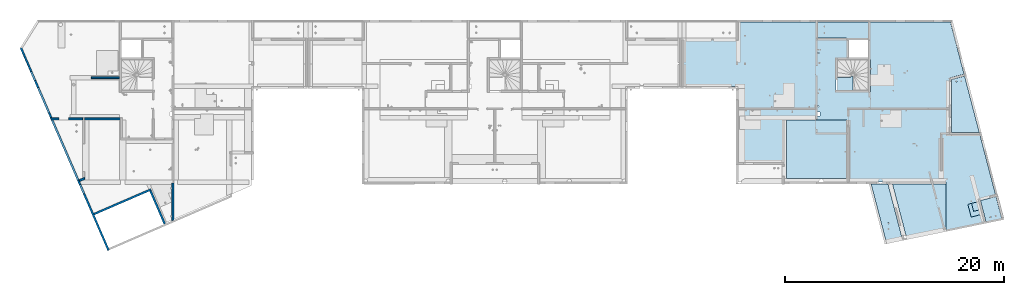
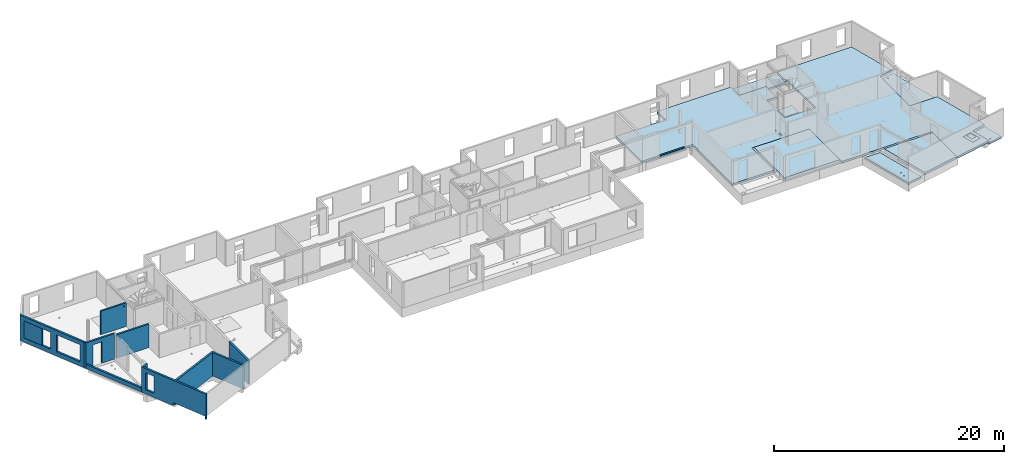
# One storey, part 4 of 34: 10 walls, 8 slabs, 15 openings.
"""IFC2X3 building model written with IfcOpenShell, lengths in centimetres."""

from ifc_helpers import new_model, entity, si_unit, converted_unit, derived_unit, direction, frame, frame_2d, origin, origin_2d_with_axis, place, context, subcontext, project, spatial, polyline, circle_curve, parameter, trimmed, segment, composite_curve, rectangle, circle, outline, extrude, clip, bounded_halfspace, material, layer, layer_set, layer_usage, type_object, element, save


model = new_model("IFC2X3")

# Units and contexts
model_context = context("Model", 3, precision=0.001, world=origin(), true_north=direction((6.12303176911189e-17, 1.0)))
body_context = subcontext(model_context, "Body", "Model", "MODEL_VIEW")
ifc_project = project(units=[si_unit("LENGTHUNIT", "METRE", prefix="CENTI"), si_unit("AREAUNIT", "SQUARE_METRE"), si_unit("VOLUMEUNIT", "CUBIC_METRE"), converted_unit("PLANEANGLEUNIT", "DEGREE", entity("IfcRatioMeasure", 0.0174532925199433), si_unit("PLANEANGLEUNIT", "RADIAN"), dimensions=[0, 0, 0, 0, 0, 0, 0]), si_unit("MASSUNIT", "GRAM", prefix="KILO"), derived_unit("MASSDENSITYUNIT", [(si_unit("MASSUNIT", "GRAM", prefix="KILO"), 1), (si_unit("LENGTHUNIT", "METRE"), -3)]), si_unit("TIMEUNIT", "SECOND"), si_unit("FREQUENCYUNIT", "HERTZ"), si_unit("THERMODYNAMICTEMPERATUREUNIT", "DEGREE_CELSIUS"), derived_unit("THERMALTRANSMITTANCEUNIT", [(si_unit("MASSUNIT", "GRAM", prefix="KILO"), 1), (si_unit("THERMODYNAMICTEMPERATUREUNIT", "KELVIN"), -1), (si_unit("TIMEUNIT", "SECOND"), -3)]), derived_unit("VOLUMETRICFLOWRATEUNIT", [(si_unit("LENGTHUNIT", "METRE"), 3), (si_unit("TIMEUNIT", "SECOND"), -1)]), si_unit("ELECTRICCURRENTUNIT", "AMPERE"), si_unit("ELECTRICVOLTAGEUNIT", "VOLT"), si_unit("POWERUNIT", "WATT"), si_unit("FORCEUNIT", "NEWTON"), si_unit("ILLUMINANCEUNIT", "LUX"), si_unit("LUMINOUSFLUXUNIT", "LUMEN"), si_unit("LUMINOUSINTENSITYUNIT", "CANDELA"), derived_unit("USERDEFINED", [(si_unit("MASSUNIT", "GRAM", prefix="KILO"), -1), (si_unit("LENGTHUNIT", "METRE"), -2), (si_unit("TIMEUNIT", "SECOND"), 3), (si_unit("LUMINOUSFLUXUNIT", "LUMEN"), 1)]), derived_unit("LINEARVELOCITYUNIT", [(si_unit("LENGTHUNIT", "METRE"), 1), (si_unit("TIMEUNIT", "SECOND"), -1)]), si_unit("PRESSUREUNIT", "PASCAL"), derived_unit("USERDEFINED", [(si_unit("LENGTHUNIT", "METRE"), -2), (si_unit("MASSUNIT", "GRAM", prefix="KILO"), 1), (si_unit("TIMEUNIT", "SECOND"), -2)])], contexts=[model_context])

# Site, building, storey
site_placement = place(None, origin())
site = spatial("IfcSite", under=ifc_project, at=site_placement, Name="Default", CompositionType="ELEMENT")
building_placement = place(site_placement, origin())
building = spatial("IfcBuilding", under=site, at=building_placement, Name="CAGE 03", CompositionType="ELEMENT")
storey_placement = place(building_placement, frame((0.0, 0.0, 340.0)))
storey = spatial("IfcBuildingStorey", under=building, at=storey_placement, Name="R+1", CompositionType="ELEMENT", Elevation=340.0)

# Slabs
ifc_material = material(Name="Béton, C25/30")
ifc_layer_1 = layer(ifc_material, 20.0)
ifc_layer_set_1 = layer_set([ifc_layer_1], Name="Sol:Dalle Béton - 20 cm")
ifc_layer_usage_1 = layer_usage(ifc_layer_set_1, "AXIS3", "POSITIVE", 0.0)
slab_1_placement = place(storey_placement, origin())
element("IfcSlab", 1, at=slab_1_placement, inside=storey, material=ifc_layer_usage_1, Name="Sol:Dalle Béton - 20 cm", ObjectType="Sol:Dalle Béton - 20 cm", PredefinedType="FLOOR", context=body_context, shape_type="SweptSolid", body=[
    extrude(outline(polyline([(-392.442227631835, -85.1428571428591), (131.497976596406, -85.1428571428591), (153.527973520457, -85.1428571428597), (161.311497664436, 63.8571428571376), (160.353539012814, 63.8571428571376), (139.281500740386, 63.857142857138), (-353.530259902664, 63.8571428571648), (-392.442227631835, -85.1428571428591)]), holes=[composite_curve([segment(trimmed(circle_curve(frame_2d((-5.95869082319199, -21.0692643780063), x_axis=(0.2526796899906, 0.967549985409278)), 5.5), [parameter(360.0)], [parameter(180.0)], True, "PARAMETER"), False, "CONTINUOUS"), segment(trimmed(circle_curve(frame_2d((-5.95869082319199, -21.0692643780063), x_axis=(0.2526796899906, 0.967549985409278)), 5.5), [parameter(180.0)], [parameter(360.0)], True, "PARAMETER"), False, "CONTINUOUS")], self_intersect=False), composite_curve([segment(trimmed(circle_curve(frame_2d((45.2063802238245, -34.4312348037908), x_axis=(0.2526796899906, 0.967549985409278)), 5.5), [parameter(360.0)], [parameter(180.0)], True, "PARAMETER"), False, "CONTINUOUS"), segment(trimmed(circle_curve(frame_2d((45.2063802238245, -34.4312348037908), x_axis=(0.2526796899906, 0.967549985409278)), 5.5), [parameter(180.0)], [parameter(360.0)], True, "PARAMETER"), False, "CONTINUOUS")], self_intersect=False)]), frame((10697.1701731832, 3438.46706520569, -45.0), z_axis=(0.0, 0.0, 1.0), x_axis=(0.252679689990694, -0.967549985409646, 0.0)), (0.0, 0.0, 1.0), 20.0),
])
ifc_layer_usage_2 = layer_usage(ifc_layer_set_1, "AXIS3", "POSITIVE", 0.0)
slab_2_placement = place(storey_placement, origin())
element("IfcSlab", 2, at=slab_2_placement, inside=storey, material=ifc_layer_usage_2, Name="Sol:Dalle Béton - 20 cm", ObjectType="Sol:Dalle Béton - 20 cm", PredefinedType="FLOOR", context=body_context, shape_type="SweptSolid", body=[
    extrude(outline(polyline([(-47.1666666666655, -242.0), (99.8333333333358, -242.0), (99.8333333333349, 220.0), (-52.666666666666, 220.0), (-52.6666666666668, 22.0), (-47.1666666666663, 22.0), (-47.1666666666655, -242.0)])), frame((10270.3658201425, 5175.82733274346, -25.0), z_axis=(0.0, 0.0, -1.0), x_axis=(0.0, 1.0, 0.0)), (0.0, 0.0, 1.0), 20.0),
])
ifc_layer_usage_3 = layer_usage(ifc_layer_set_1, "AXIS3", "POSITIVE", 0.0)
slab_3_placement = place(storey_placement, origin())
element("IfcSlab", 3, at=slab_3_placement, inside=storey, material=ifc_layer_usage_3, Name="Sol:Dalle Béton - 20 cm", ObjectType="Sol:Dalle Béton - 20 cm", PredefinedType="FLOOR", context=body_context, shape_type="SweptSolid", body=[
    extrude(outline(polyline([(-399.024824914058, -76.6053543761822), (93.9729604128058, -76.6053543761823), (112.576650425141, -76.6053543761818), (133.369409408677, -76.6053543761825), (133.369409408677, 38.6315831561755), (133.369409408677, 47.9685545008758), (126.944164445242, 49.6465338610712), (-334.577178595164, 170.174745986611), (-399.024824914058, -76.6053543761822)]), holes=[composite_curve([segment(trimmed(circle_curve(frame_2d((105.898078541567, 8.63358141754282), x_axis=(-0.2526796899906, -0.967549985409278)), 5.5), [parameter(360.0)], [parameter(180.0)], True, "PARAMETER"), False, "CONTINUOUS"), segment(trimmed(circle_curve(frame_2d((105.898078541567, 8.63358141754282), x_axis=(-0.2526796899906, -0.967549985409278)), 5.5), [parameter(180.0)], [parameter(360.0)], True, "PARAMETER"), False, "CONTINUOUS")], self_intersect=False)]), frame((11328.4775353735, 4633.38051240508, -45.0), z_axis=(0.0, 0.0, 1.0), x_axis=(-0.252679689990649, 0.967549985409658, 0.0)), (0.0, 0.0, 1.0), 20.0),
])
ifc_layer_usage_4 = layer_usage(ifc_layer_set_1, "AXIS3", "POSITIVE", 0.0)
slab_4_placement = place(storey_placement, origin())
element("IfcSlab", 4, at=slab_4_placement, inside=storey, material=ifc_layer_usage_4, Name="Sol:Dalle Béton - 20 cm", ObjectType="Sol:Dalle Béton - 20 cm", PredefinedType="FLOOR", context=body_context, shape_type="SweptSolid", body=[
    extrude(outline(polyline([(-73.500000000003, -134.373576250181), (73.4999999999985, -134.373576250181), (73.4999999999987, 59.592151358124), (73.4999999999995, 67.1023775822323), (-73.5000000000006, 74.7814248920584), (-73.5000000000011, 67.2711986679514), (-73.500000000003, -134.373576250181)]), holes=[composite_curve([segment(trimmed(circle_curve(frame_2d((24.5140225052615, 34.0150509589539), x_axis=(-1.0, 0.0)), 5.5), [parameter(1.62844399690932e-12)], [parameter(180.000000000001)], True, "PARAMETER"), False, "CONTINUOUS"), segment(trimmed(circle_curve(frame_2d((24.5140225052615, 34.0150509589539), x_axis=(-1.0, 0.0)), 5.5), [parameter(180.000000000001)], [parameter(1.62844399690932e-12)], True, "PARAMETER"), False, "CONTINUOUS")], self_intersect=False)]), frame((11618.7799813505, 3534.05680734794, -45.0), z_axis=(0.0, 0.0, 1.0), x_axis=(-0.967549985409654, -0.252679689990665, 0.0)), (0.0, 0.0, 1.0), 20.0),
])

# Slab, openings
ifc_layer_2 = layer(ifc_material, 23.0)
ifc_layer_set_2 = layer_set([ifc_layer_2], Name="Sol:Dalle Béton - 23 cm")
ifc_layer_usage_5 = layer_usage(ifc_layer_set_2, "AXIS3", "POSITIVE", 0.0)
slab_5_placement = place(storey_placement, frame((8789.36582014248, 3375.92053429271, -23.0)))
slab_5 = element("IfcSlab", 5, at=slab_5_placement, inside=storey, material=ifc_layer_usage_5, Name="Sol:Dalle Béton - 23 cm", ObjectType="Sol:Dalle Béton - 23 cm", PredefinedType="FLOOR", context=body_context, shape_type="SweptSolid", body=[
    extrude(outline(polyline([(194.287805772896, 949.87006589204), (194.287805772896, 802.870065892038), (-72.7121942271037, 802.870065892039), (-72.7121942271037, 619.370065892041), (26.7878057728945, 619.370065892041), (26.7878057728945, 312.370065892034), (-285.712194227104, 312.370065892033), (-285.712194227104, 606.870065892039), (-280.212194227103, 606.870065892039), (-280.212194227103, 797.37006589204), (-267.712194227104, 797.37006589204), (-267.712194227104, 949.87006589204), (-1017.26435487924, 949.870065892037), (-1141.69544352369, 473.403999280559), (-1007.7121942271, 438.413718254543), (-1007.7121942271, -77.1299341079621), (-1285.46966265, -77.1299341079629), (-1433.2878057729, -643.148683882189), (-1291.05795791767, -680.292598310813), (-1341.96683947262, -875.230654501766), (-979.822430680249, -949.870065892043), (-978.712194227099, -944.48328809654), (-978.7121942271, -511.129934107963), (-74.7121942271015, -511.12993410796), (-74.7121942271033, 55.8700658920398), (501.287805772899, 55.8700658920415), (501.287805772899, -331.129934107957), (920.287805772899, -331.129934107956), (920.287805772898, 360.870065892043), (1433.2878057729, 360.870065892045), (1433.2878057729, 802.87006589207), (938.287805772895, 802.870065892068), (938.287805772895, 949.870065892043), (194.287805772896, 949.87006589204)])), frame((1433.2878057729, 949.870065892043, 23.0), z_axis=(0.0, 0.0, -1.0), x_axis=(-1.0, 0.0, 0.0)), (0.0, 0.0, 1.0), 23.0),
])
opening_1_placement = place(slab_5_placement, origin())
element("IfcOpeningElement", 6, at=opening_1_placement, cuts=slab_5, ObjectType="Opening", context=body_context, shape_type="SweptSolid", body=[
    extrude(rectangle(XDim=255.000000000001, YDim=26.0000000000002, at=origin_2d_with_axis()), frame((302.499999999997, 1305.74013178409, 11.0)), (0.0, 0.0, 1.0), 11.9999999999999),
])
opening_2_placement = place(slab_5_placement, origin())
element("IfcOpeningElement", 7, at=opening_2_placement, cuts=slab_5, ObjectType="Opening", context=body_context, shape_type="SweptSolid", body=[
    extrude(rectangle(XDim=120.000000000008, YDim=90.0000000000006, at=origin_2d_with_axis()), frame((2668.07735478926, 188.219516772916, 20.0), z_axis=(0.0, 0.0, 1.0), x_axis=(-0.252679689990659, 0.967549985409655, 0.0)), (0.0, 0.0, 1.0), 13.9999999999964),
])
opening_3_placement = place(slab_5_placement, origin())
element("IfcOpeningElement", 8, at=opening_3_placement, cuts=slab_5, ObjectType="Opening", context=body_context, shape_type="SweptSolid", body=[
    extrude(rectangle(XDim=75.0000000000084, YDim=55.0000000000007, at=origin_2d_with_axis()), frame((2679.32418650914, 214.41128601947, 13.0), z_axis=(0.0, 0.0, 1.0), x_axis=(-0.252679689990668, 0.967549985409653, 0.0)), (0.0, 0.0, 1.0), 20.9999999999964),
])
opening_4_placement = place(slab_5_placement, origin())
element("IfcOpeningElement", 9, at=opening_4_placement, cuts=slab_5, ObjectType="Opening", context=body_context, shape_type="SweptSolid", body=[
    extrude(rectangle(XDim=39.9999999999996, YDim=19.9999999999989, at=origin_2d_with_axis()), frame((1249.0, 1060.24013178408, -251.327930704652), z_axis=(0.0, 0.0, 1.0), x_axis=(0.0, -1.0, 0.0)), (0.0, 0.0, 1.0), 493.425926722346),
])
opening_5_placement = place(slab_5_placement, origin())
element("IfcOpeningElement", 10, at=opening_5_placement, cuts=slab_5, ObjectType="Opening", context=body_context, shape_type="SweptSolid", body=[
    extrude(circle(Radius=5.5, at=origin_2d_with_axis()), frame((1244.5, 1130.24013178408, 0.0)), (0.0, 0.0, 1.0), 23.0),
])
opening_6_placement = place(slab_5_placement, origin())
element("IfcOpeningElement", 11, at=opening_6_placement, cuts=slab_5, ObjectType="Opening", context=body_context, shape_type="SweptSolid", body=[
    extrude(circle(Radius=5.5, at=origin_2d_with_axis()), frame((1244.5, 1615.74013178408, 0.0)), (0.0, 0.0, 1.0), 23.0),
])

# Slabs
ifc_layer_usage_6 = layer_usage(ifc_layer_set_1, "AXIS3", "POSITIVE", 0.0)
slab_6_placement = place(storey_placement, origin())
element("IfcSlab", 12, at=slab_6_placement, inside=storey, material=ifc_layer_usage_6, Name="Sol:Dalle Béton - 20 cm", ObjectType="Sol:Dalle Béton - 20 cm", PredefinedType="FLOOR", context=body_context, shape_type="SweptSolid", body=[
    extrude(outline(composite_curve([segment(polyline([(-85.2340667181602, -89.0921462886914), (36.2717832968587, -89.0921462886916)]), True, "CONTINUOUS"), segment(polyline([(36.2717832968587, -89.0921462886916), (36.2717832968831, 17.4802710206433)]), True, "CONTINUOUS"), segment(trimmed(circle_curve(frame_2d((70.1894485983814, 17.4802710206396), x_axis=(-1.0, 0.0)), 33.9176653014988), [parameter(303.116761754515)], [parameter(0.0)], True, "PARAMETER"), False, "CONTINUOUS"), segment(trimmed(circle_curve(frame_2d((61.2659332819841, 57.4078537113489), x_axis=(-0.640486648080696, -0.767969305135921)), 15.0000000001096), [parameter(309.828117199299)], [parameter(0.0)], True, "PARAMETER"), False, "CONTINUOUS"), segment(polyline([(46.265933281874, 57.407853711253), (-85.2340667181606, 57.407853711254)]), True, "CONTINUOUS"), segment(polyline([(-85.2340667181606, 57.407853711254), (-85.2340667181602, -89.0921462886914)]), True, "CONTINUOUS")], self_intersect=False)), frame((10291.9579664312, 4730.39473279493, 0.0), z_axis=(0.0, 0.0, -1.0), x_axis=(0.0, 1.0, 0.0)), (0.0, 0.0, 1.0), 20.0),
])
ifc_layer_3 = layer(ifc_material, 28.0)
ifc_layer_set_3 = layer_set([ifc_layer_3], Name="Sol:Dalle Béton - 28 cm")
ifc_layer_usage_7 = layer_usage(ifc_layer_set_3, "AXIS3", "POSITIVE", 0.0)
slab_7_placement = place(storey_placement, origin())
element("IfcSlab", 13, at=slab_7_placement, inside=storey, material=ifc_layer_usage_7, Name="Sol:Dalle Béton - 28 cm", ObjectType="Sol:Dalle Béton - 28 cm", PredefinedType="FLOOR", context=body_context, shape_type="SweptSolid", body=[
    extrude(outline(polyline([(-226.379443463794, -213.201252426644), (189.032784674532, -213.201252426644), (263.726102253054, 149.204704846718), (-226.379443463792, 277.197800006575), (-226.379443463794, -213.201252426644)])), frame((10988.1645677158, 3570.28122261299, 0.0), z_axis=(0.0, 0.0, -1.0), x_axis=(0.0, -1.0, 0.0)), (0.0, 0.0, 1.0), 28.0),
])
ifc_layer_4 = layer(ifc_material, 30.0)
ifc_layer_set_4 = layer_set([ifc_layer_4], Name="Sol:Dalle Béton - 30 cm")
ifc_layer_usage_8 = layer_usage(ifc_layer_set_4, "AXIS3", "POSITIVE", 0.0)
slab_8_placement = place(storey_placement, origin())
element("IfcSlab", 14, at=slab_8_placement, inside=storey, material=ifc_layer_usage_8, Name="Sol:Dalle Béton - 30 cm", ObjectType="Sol:Dalle Béton - 30 cm", PredefinedType="FLOOR", context=body_context, shape_type="SweptSolid", body=[
    extrude(rectangle(XDim=535.000000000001, YDim=554.000000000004, at=frame_2d((2.27373675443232e-13, -8.5265128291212e-13), x_axis=(1.0, 0.0))), frame((10020.3658201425, 4114.16066607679, 0.0), z_axis=(0.0, 0.0, -1.0), x_axis=(0.0, 1.0, 0.0)), (0.0, 0.0, 1.0), 30.0),
])

# Wall, openings
ifc_layer_5 = layer(ifc_material, 18.0)
ifc_layer_set_5 = layer_set([ifc_layer_5], Name="Mur de base:Voile BA 18")
ifc_layer_usage_9 = layer_usage(ifc_layer_set_5, "AXIS2", "NEGATIVE", 9.0)
wall_type_1 = type_object("IfcWallType", Name="Mur de base:Voile BA 18", PredefinedType="STANDARD", material=ifc_layer_set_5)
wall_1_placement = place(storey_placement, frame((3555.63190908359, 3190.75283012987, 0.0), z_axis=(0.0, 0.0, 1.0), x_axis=(-0.397106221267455, 0.917772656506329, 0.0)))
wall_1 = element("IfcWallStandardCase", 15, at=wall_1_placement, inside=storey, type_object=wall_type_1, material=ifc_layer_usage_9, Name="Mur de base:Voile BA 18", ObjectType="Mur de base:Voile BA 18", context=body_context, shape_type="SweptSolid", body=[
    extrude(rectangle(XDim=698.999999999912, YDim=18.0000000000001, at=frame_2d((349.499999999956, 6.92779167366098e-14), x_axis=(-1.0, 0.0))), origin(), (0.0, 0.0, 1.0), 270.0),
])
opening_7_placement = place(wall_1_placement, origin())
element("IfcOpeningElement", 16, at=opening_7_placement, cuts=wall_1, Name="Mur de base:Voile BA 18", ObjectType="Recess", context=body_context, shape_type="SweptSolid", body=[
    extrude(rectangle(XDim=181.0, YDim=194.0, at=frame_2d((0.0, 0.0), x_axis=(0.0, 1.0))), frame((1875.49999999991, 7.0, 135.5), z_axis=(0.0, 1.0, 0.0), x_axis=(1.0, 0.0, 0.0)), (0.0, 0.0, 1.0), 2.00000000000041),
])
opening_8_placement = place(wall_1_placement, origin())
element("IfcOpeningElement", 17, at=opening_8_placement, cuts=wall_1, Name="Mur de base:Voile BA 18", ObjectType="Opening", context=body_context, shape_type="SweptSolid", body=[
    extrude(rectangle(XDim=31.9999999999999, YDim=347.999999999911, at=frame_2d((-3.25073301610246e-13, 1.84741111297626e-13), x_axis=(1.0, 0.0))), frame((183.0, 9.0, 16.0), z_axis=(0.0, -1.0, 0.0), x_axis=(0.0, 0.0, 1.0)), (0.0, 0.0, 1.0), 18.0),
])
opening_9_placement = place(wall_1_placement, frame((-1516.4221495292, 4530.32954212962, 0.0), z_axis=(0.0, 0.0, 1.0), x_axis=(-0.397106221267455, -0.917772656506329, 0.0)))
element("IfcOpeningElement", 18, at=opening_9_placement, cuts=wall_1, Name="Mur de base:Voile BA 18", ObjectType="Opening", context=body_context, shape_type="SweptSolid", body=[
    extrude(rectangle(XDim=181.0, YDim=91.0, at=frame_2d((0.0, -8.88178419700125e-14), x_axis=(1.0, 0.0))), frame((3445.99847860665, 3805.24475108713, 135.5), z_axis=(-0.917772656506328, -0.397106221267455, 0.0), x_axis=(0.0, 0.0, 1.0)), (0.0, 0.0, 1.0), 304.8),
])

# Wall
ifc_layer_usage_10 = layer_usage(ifc_layer_set_5, "AXIS2", "NEGATIVE", 9.0)
wall_2_placement = place(storey_placement, frame((3289.88857031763, 3827.58991911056, 0.0), z_axis=(0.0, 0.0, 1.0), x_axis=(0.917772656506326, 0.397106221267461, 0.0)))
element("IfcWallStandardCase", 19, at=wall_2_placement, inside=storey, type_object=wall_type_1, material=ifc_layer_usage_10, Name="Mur de base:Voile BA 18", ObjectType="Mur de base:Voile BA 18", context=body_context, shape_type="SweptSolid", body=[
    extrude(outline(polyline([(47.2919884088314, -9.0), (55.0803136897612, 9.0), (35.4676134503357, 9.0), (0.0, 9.0), (0.0, -9.0), (47.2919884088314, -9.0)])), origin(), (0.0, 0.0, 1.0), 270.0),
])

# Wall, opening
ifc_layer_usage_11 = layer_usage(ifc_layer_set_5, "AXIS2", "NEGATIVE", 9.0)
wall_3_placement = place(storey_placement, frame((3318.86582014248, 4390.66066607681, 0.0), z_axis=(0.0, 0.0, 1.0), x_axis=(-1.0, 0.0, 0.0)))
wall_3 = element("IfcWallStandardCase", 20, at=wall_3_placement, inside=storey, type_object=wall_type_1, material=ifc_layer_usage_11, Name="Mur de base:Voile BA 18", ObjectType="Mur de base:Voile BA 18", context=body_context, shape_type="SweptSolid", body=[
    extrude(outline(polyline([(288.327905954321, 9.0), (0.0, 9.0), (0.0, -9.0), (276.503530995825, -9.0), (296.116231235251, -9.0), (288.327905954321, 9.0)])), origin(), (0.0, 0.0, 1.0), 270.0),
])
opening_10_placement = place(wall_3_placement, frame((3318.86582014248, 4390.66066607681, 0.0), z_axis=(0.0, 0.0, 1.0), x_axis=(-1.0, 0.0, 0.0)))
element("IfcOpeningElement", 21, at=opening_10_placement, cuts=wall_3, Name="Mur de base:Voile BA 18", ObjectType="Opening", context=body_context, shape_type="SweptSolid", body=[
    extrude(rectangle(XDim=226.0, YDim=91.0000000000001, at=frame_2d((5.6843418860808e-14, 0.0), x_axis=(1.0, 0.0))), frame((3146.36582014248, 4534.06066607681, 113.0), z_axis=(0.0, -1.0, 0.0), x_axis=(0.0, 0.0, 1.0)), (0.0, 0.0, 1.0), 304.8),
])

# Wall, openings
ifc_layer_usage_12 = layer_usage(ifc_layer_set_5, "AXIS2", "NEGATIVE", 9.0)
wall_4_placement = place(storey_placement, frame((3034.1023352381, 4396.08671008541, 0.0), z_axis=(0.0, 0.0, 1.0), x_axis=(-0.397106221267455, 0.917772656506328, 0.0)))
wall_4 = element("IfcWallStandardCase", 22, at=wall_4_placement, inside=storey, type_object=wall_type_1, material=ifc_layer_usage_12, Name="Mur de base:Voile BA 18", ObjectType="Mur de base:Voile BA 18", context=body_context, shape_type="SweptSolid", body=[
    extrude(outline(polyline([(714.485241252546, -9.0), (702.296747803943, 8.75029327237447), (702.125283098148, 9.0), (7.78832528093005, 9.0), (0.0, -9.0), (692.65021055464, -9.0), (694.616466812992, -9.0), (714.485241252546, -9.0)])), origin(), (0.0, 0.0, 1.0), 270.0),
])
opening_11_placement = place(wall_4_placement, origin())
element("IfcOpeningElement", 23, at=opening_11_placement, cuts=wall_4, Name="Mur de base:Voile BA 18", ObjectType="Recess", context=body_context, shape_type="SweptSolid", body=[
    extrude(rectangle(XDim=181.0, YDim=194.0, at=frame_2d((0.0, 0.0), x_axis=(0.0, 1.0))), frame((562.174884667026, 7.0, 135.5), z_axis=(0.0, 1.0, 0.0), x_axis=(1.0, 0.0, 0.0)), (0.0, 0.0, 1.0), 2.00000000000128),
])
opening_12_placement = place(wall_4_placement, frame((-2829.74726486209, 4530.32954212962, 0.0), z_axis=(0.0, 0.0, 1.0), x_axis=(-0.397106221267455, -0.917772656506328, 0.0)))
element("IfcOpeningElement", 24, at=opening_12_placement, cuts=wall_4, Name="Mur de base:Voile BA 18", ObjectType="Opening", context=body_context, shape_type="SweptSolid", body=[
    extrude(rectangle(XDim=181.0, YDim=91.0, at=frame_2d((0.0, -8.88178419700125e-14), x_axis=(1.0, 0.0))), frame((2999.05542657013, 4838.197875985, 135.5), z_axis=(-0.917772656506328, -0.397106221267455, 0.0), x_axis=(0.0, 0.0, 1.0)), (0.0, 0.0, 1.0), 304.8),
])
opening_13_placement = place(wall_4_placement, frame((-2829.74726486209, 4530.32954212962, 0.0), z_axis=(0.0, 0.0, 1.0), x_axis=(-0.397106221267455, -0.917772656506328, 0.0)))
element("IfcOpeningElement", 25, at=opening_13_placement, cuts=wall_4, Name="Mur de base:Voile BA 18", ObjectType="Opening", context=body_context, shape_type="SweptSolid", body=[
    extrude(rectangle(XDim=181.0, YDim=251.0, at=frame_2d((0.0, 4.05009359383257e-13), x_axis=(1.0, 0.0))), frame((3094.36091967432, 4617.93243842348, 135.5), z_axis=(-0.917772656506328, -0.397106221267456, 0.0), x_axis=(0.0, 0.0, 1.0)), (0.0, 0.0, 1.0), 304.8),
])

# Walls
ifc_layer_usage_13 = layer_usage(ifc_layer_set_5, "AXIS2", "NEGATIVE", 9.0)
wall_5_placement = place(storey_placement, frame((3663.36582014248, 4390.66066607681, 0.0), z_axis=(0.0, 0.0, 1.0), x_axis=(-1.0, 0.0, 0.0)))
element("IfcWallStandardCase", 26, at=wall_5_placement, inside=storey, type_object=wall_type_1, material=ifc_layer_usage_13, Name="Mur de base:Voile BA 18", ObjectType="Mur de base:Voile BA 18", context=body_context, shape_type="SweptSolid", body=[
    extrude(rectangle(XDim=326.5, YDim=17.9999999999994, at=frame_2d((163.25, 1.23456800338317e-13), x_axis=(-1.0, 0.0))), origin(), (0.0, 0.0, 1.0), 250.0),
])
ifc_layer_usage_14 = layer_usage(ifc_layer_set_5, "AXIS2", "NEGATIVE", 9.0)
wall_6_placement = place(storey_placement, frame((3422.1249419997, 3521.97162449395, 0.0), z_axis=(0.0, 0.0, 1.0), x_axis=(0.917772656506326, 0.397106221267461, 0.0)))
element("IfcWallStandardCase", 27, at=wall_6_placement, inside=storey, type_object=wall_type_1, material=ifc_layer_usage_14, Name="Mur de base:Voile BA 18", ObjectType="Mur de base:Voile BA 18", context=body_context, shape_type="Clipping", body=[
    clip(extrude(rectangle(XDim=566.5, YDim=18.0000000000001, at=frame_2d((283.25, 9.59232693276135e-14), x_axis=(-1.0, 0.0))), origin(), (0.0, 0.0, 1.0), 250.0), bounded_halfspace(frame((0.0, -9.0, 250.0), z_axis=(0.0, 0.0, -1.0), x_axis=(-0.397106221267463, -0.917772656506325, 0.0)), True, frame((0.0, -9.0, 250.0), z_axis=(0.0, 0.0, -1.0), x_axis=(-0.397106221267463, -0.917772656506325, 0.0)), polyline([(0.0, 0.0), (-16.5199078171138, 7.14791198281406), (-241.480582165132, -512.770297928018), (-224.960674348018, -519.918209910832), (-217.812762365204, -503.398302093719), (0.0, 0.0)]))),
])
ifc_layer_usage_15 = layer_usage(ifc_layer_set_5, "AXIS2", "NEGATIVE", 9.0)
wall_7_placement = place(storey_placement, frame((3937.35715399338, 3735.098388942, 0.0), z_axis=(0.0, 0.0, 1.0), x_axis=(0.397106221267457, -0.917772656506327, 0.0)))
element("IfcWallStandardCase", 28, at=wall_7_placement, inside=storey, type_object=wall_type_1, material=ifc_layer_usage_15, Name="Mur de base:Voile BA 18", ObjectType="Mur de base:Voile BA 18", context=body_context, shape_type="Clipping", body=[
    clip(extrude(rectangle(XDim=329.999999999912, YDim=17.9999999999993, at=frame_2d((164.999999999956, 2.1493917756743e-13), x_axis=(-1.0, 0.0))), origin(), (0.0, 0.0, 1.0), 250.0), bounded_halfspace(frame((0.0, -9.0, 250.0), z_axis=(0.0, 0.0, -1.0), x_axis=(0.917772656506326, -0.39710622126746, 0.0)), True, frame((0.0, -9.0, 250.0), z_axis=(0.0, 0.0, -1.0), x_axis=(0.917772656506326, -0.39710622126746, 0.0)), polyline([(0.0, 0.0), (-7.14791198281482, -16.519907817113), (295.717064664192, -147.564960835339), (302.864976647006, -131.045053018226), (0.0, 0.0)]))),
])

# Wall, opening
ifc_layer_usage_16 = layer_usage(ifc_layer_set_5, "AXIS2", "POSITIVE", -9.0)
wall_8_placement = place(storey_placement, frame((3038.79786809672, 4385.23462206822, 0.0), z_axis=(0.0, 0.0, 1.0), x_axis=(0.397106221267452, -0.91777265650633, 0.0)))
wall_8 = element("IfcWallStandardCase", 29, at=wall_8_placement, inside=storey, type_object=wall_type_1, material=ifc_layer_usage_16, Name="Mur de base:Voile BA 18", ObjectType="Mur de base:Voile BA 18", context=body_context, shape_type="SweptSolid", body=[
    extrude(outline(polyline([(602.500740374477, -9.0), (602.500740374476, 9.0), (7.78832528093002, 9.0), (0.0, -9.0), (602.500740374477, -9.0)])), origin(), (0.0, 0.0, 1.0), 45.0),
])
opening_14_placement = place(wall_8_placement, origin())
element("IfcOpeningElement", 30, at=opening_14_placement, cuts=wall_8, Name="Mur de base:Voile BA 18", ObjectType="Recess", context=body_context, shape_type="SweptSolid", body=[
    extrude(rectangle(XDim=181.0, YDim=194.0, at=origin_2d_with_axis()), frame((-573.999259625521, -9.0, 135.5), z_axis=(0.0, 1.0, 0.0), x_axis=(0.0, 0.0, -1.0)), (0.0, 0.0, 1.0), 2.00000000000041),
])

# Wall
ifc_layer_usage_17 = layer_usage(ifc_layer_set_5, "AXIS2", "POSITIVE", -9.0)
wall_9_placement = place(storey_placement, frame((4143.36582014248, 3805.77486094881, 0.0), z_axis=(0.0, 0.0, 1.0), x_axis=(0.0, -1.0, 0.0)))
element("IfcWallStandardCase", 31, at=wall_9_placement, inside=storey, type_object=wall_type_1, material=ifc_layer_usage_17, Name="Mur de base:Voile BA 18", ObjectType="Mur de base:Voile BA 18", context=body_context, shape_type="SweptSolid", body=[
    extrude(outline(polyline([(345.0, -9.0), (337.21167471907, 9.0), (0.0, 9.0), (0.0, -9.0), (1.11419487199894, -9.0), (89.08112143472, -9.0), (345.0, -9.0)])), origin(), (0.0, 0.0, 1.0), 250.0),
])

# Wall, opening
ifc_layer_6 = layer(ifc_material, 16.0)
ifc_layer_set_6 = layer_set([ifc_layer_6], Name="Mur de base:Voile BA 16")
ifc_layer_usage_18 = layer_usage(ifc_layer_set_6, "AXIS2", "POSITIVE", -8.0)
wall_type_2 = type_object("IfcWallType", Name="Mur de base:Voile BA 16", PredefinedType="STANDARD", material=ifc_layer_set_6)
wall_10_placement = place(storey_placement, frame((3398.36582014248, 4767.16066607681, 0.0)))
wall_10 = element("IfcWallStandardCase", 32, at=wall_10_placement, inside=storey, type_object=wall_type_2, material=ifc_layer_usage_18, Name="Mur de base:Voile BA 16", ObjectType="Mur de base:Voile BA 16", context=body_context, shape_type="SweptSolid", body=[
    extrude(rectangle(XDim=256.0, YDim=15.9999999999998, at=frame_2d((128.0, -1.77635683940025e-15), x_axis=(-1.0, 0.0))), origin(), (0.0, 0.0, 1.0), 250.0),
])
opening_15_placement = place(wall_10_placement, origin())
element("IfcOpeningElement", 33, at=opening_15_placement, cuts=wall_10, Name="Mur de base:Voile BA 16", ObjectType="Opening", context=body_context, shape_type="SweptSolid", body=[
    extrude(circle(Radius=6.25, at=origin_2d_with_axis()), frame((233.712125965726, -8.0, 223.19), z_axis=(0.0, 1.0, 0.0), x_axis=(-1.0, 0.0, 0.0)), (0.0, 0.0, 1.0), 15.9999999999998),
])

save(model, "model.ifc")
